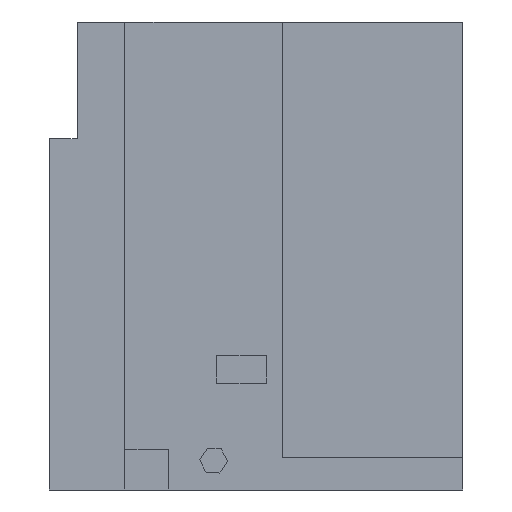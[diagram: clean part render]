
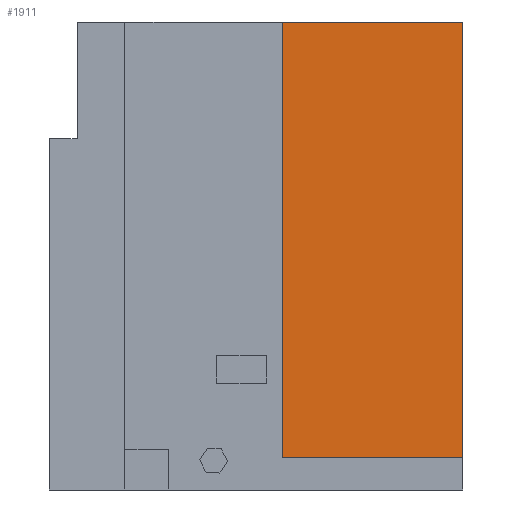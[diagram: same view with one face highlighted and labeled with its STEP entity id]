
A CAD part, left-side view. The second image highlights one B-rep face of the part: STEP entity #1911.
In plain terms, the highlighted planar face has unit normal (-1, 0, 0).
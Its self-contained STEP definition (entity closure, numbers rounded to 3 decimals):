
#44 = PLANE('',#45);
#45 = AXIS2_PLACEMENT_3D('',#46,#47,#48);
#46 = CARTESIAN_POINT('',(0.,0.,33.528));
#47 = DIRECTION('',(0.,0.,1.));
#48 = DIRECTION('',(1.,0.,-0.));
#72 = PLANE('',#73);
#73 = AXIS2_PLACEMENT_3D('',#74,#75,#76);
#74 = CARTESIAN_POINT('',(0.,12.929,33.528));
#75 = DIRECTION('',(0.,1.,0.));
#76 = DIRECTION('',(0.,0.,-1.));
#100 = PLANE('',#101);
#101 = AXIS2_PLACEMENT_3D('',#102,#103,#104);
#102 = CARTESIAN_POINT('',(0.,12.929,2.364));
#103 = DIRECTION('',(0.,-0.,-1.));
#104 = DIRECTION('',(0.,-1.,0.));
#128 = PLANE('',#129);
#129 = AXIS2_PLACEMENT_3D('',#130,#131,#132);
#130 = CARTESIAN_POINT('',(0.,0.,0.));
#131 = DIRECTION('',(-0.,1.,0.));
#132 = DIRECTION('',(0.,0.,1.));
#539 = VERTEX_POINT('',#540);
#540 = CARTESIAN_POINT('',(9.227,12.929,
    33.528));
#561 = EDGE_CURVE('',#562,#539,#564,.T.);
#562 = VERTEX_POINT('',#563);
#563 = CARTESIAN_POINT('',(9.227,0.,33.528));
#564 = SURFACE_CURVE('',#565,(#569,#576),.PCURVE_S1.);
#565 = LINE('',#566,#567);
#566 = CARTESIAN_POINT('',(9.227,0.,33.528));
#567 = VECTOR('',#568,1.);
#568 = DIRECTION('',(0.,1.,0.));
#569 = PCURVE('',#44,#570);
#570 = DEFINITIONAL_REPRESENTATION('',(#571),#575);
#571 = LINE('',#572,#573);
#572 = CARTESIAN_POINT('',(9.227,0.));
#573 = VECTOR('',#574,1.);
#574 = DIRECTION('',(0.,1.));
#575 = ( GEOMETRIC_REPRESENTATION_CONTEXT(2) 
PARAMETRIC_REPRESENTATION_CONTEXT() REPRESENTATION_CONTEXT('2D SPACE',''
  ) );
#576 = PCURVE('',#577,#582);
#577 = PLANE('',#578);
#578 = AXIS2_PLACEMENT_3D('',#579,#580,#581);
#579 = CARTESIAN_POINT('',(9.227,6.464,17.946
    ));
#580 = DIRECTION('',(-1.,-0.,-0.));
#581 = DIRECTION('',(0.,0.,-1.));
#582 = DEFINITIONAL_REPRESENTATION('',(#583),#587);
#583 = LINE('',#584,#585);
#584 = CARTESIAN_POINT('',(-15.582,6.464));
#585 = VECTOR('',#586,1.);
#586 = DIRECTION('',(0.,-1.));
#587 = ( GEOMETRIC_REPRESENTATION_CONTEXT(2) 
PARAMETRIC_REPRESENTATION_CONTEXT() REPRESENTATION_CONTEXT('2D SPACE',''
  ) );
#835 = EDGE_CURVE('',#539,#836,#838,.T.);
#836 = VERTEX_POINT('',#837);
#837 = CARTESIAN_POINT('',(9.227,12.929,2.364
    ));
#838 = SURFACE_CURVE('',#839,(#843,#850),.PCURVE_S1.);
#839 = LINE('',#840,#841);
#840 = CARTESIAN_POINT('',(9.227,12.929,
    33.528));
#841 = VECTOR('',#842,1.);
#842 = DIRECTION('',(0.,0.,-1.));
#843 = PCURVE('',#72,#844);
#844 = DEFINITIONAL_REPRESENTATION('',(#845),#849);
#845 = LINE('',#846,#847);
#846 = CARTESIAN_POINT('',(0.,-9.227));
#847 = VECTOR('',#848,1.);
#848 = DIRECTION('',(1.,0.));
#849 = ( GEOMETRIC_REPRESENTATION_CONTEXT(2) 
PARAMETRIC_REPRESENTATION_CONTEXT() REPRESENTATION_CONTEXT('2D SPACE',''
  ) );
#850 = PCURVE('',#577,#851);
#851 = DEFINITIONAL_REPRESENTATION('',(#852),#856);
#852 = LINE('',#853,#854);
#853 = CARTESIAN_POINT('',(-15.582,-6.464));
#854 = VECTOR('',#855,1.);
#855 = DIRECTION('',(1.,0.));
#856 = ( GEOMETRIC_REPRESENTATION_CONTEXT(2) 
PARAMETRIC_REPRESENTATION_CONTEXT() REPRESENTATION_CONTEXT('2D SPACE',''
  ) );
#1098 = EDGE_CURVE('',#836,#1099,#1101,.T.);
#1099 = VERTEX_POINT('',#1100);
#1100 = CARTESIAN_POINT('',(9.227,0.,2.364));
#1101 = SURFACE_CURVE('',#1102,(#1106,#1113),.PCURVE_S1.);
#1102 = LINE('',#1103,#1104);
#1103 = CARTESIAN_POINT('',(9.227,12.929,
    2.364));
#1104 = VECTOR('',#1105,1.);
#1105 = DIRECTION('',(0.,-1.,0.));
#1106 = PCURVE('',#100,#1107);
#1107 = DEFINITIONAL_REPRESENTATION('',(#1108),#1112);
#1108 = LINE('',#1109,#1110);
#1109 = CARTESIAN_POINT('',(0.,-9.227));
#1110 = VECTOR('',#1111,1.);
#1111 = DIRECTION('',(1.,0.));
#1112 = ( GEOMETRIC_REPRESENTATION_CONTEXT(2) 
PARAMETRIC_REPRESENTATION_CONTEXT() REPRESENTATION_CONTEXT('2D SPACE',''
  ) );
#1113 = PCURVE('',#577,#1114);
#1114 = DEFINITIONAL_REPRESENTATION('',(#1115),#1119);
#1115 = LINE('',#1116,#1117);
#1116 = CARTESIAN_POINT('',(15.582,-6.464));
#1117 = VECTOR('',#1118,1.);
#1118 = DIRECTION('',(0.,1.));
#1119 = ( GEOMETRIC_REPRESENTATION_CONTEXT(2) 
PARAMETRIC_REPRESENTATION_CONTEXT() REPRESENTATION_CONTEXT('2D SPACE',''
  ) );
#1241 = EDGE_CURVE('',#1099,#562,#1242,.T.);
#1242 = SURFACE_CURVE('',#1243,(#1247,#1254),.PCURVE_S1.);
#1243 = LINE('',#1244,#1245);
#1244 = CARTESIAN_POINT('',(9.227,0.,2.364));
#1245 = VECTOR('',#1246,1.);
#1246 = DIRECTION('',(0.,0.,1.));
#1247 = PCURVE('',#128,#1248);
#1248 = DEFINITIONAL_REPRESENTATION('',(#1249),#1253);
#1249 = LINE('',#1250,#1251);
#1250 = CARTESIAN_POINT('',(2.364,9.227));
#1251 = VECTOR('',#1252,1.);
#1252 = DIRECTION('',(1.,0.));
#1253 = ( GEOMETRIC_REPRESENTATION_CONTEXT(2) 
PARAMETRIC_REPRESENTATION_CONTEXT() REPRESENTATION_CONTEXT('2D SPACE',''
  ) );
#1254 = PCURVE('',#577,#1255);
#1255 = DEFINITIONAL_REPRESENTATION('',(#1256),#1260);
#1256 = LINE('',#1257,#1258);
#1257 = CARTESIAN_POINT('',(15.582,6.464));
#1258 = VECTOR('',#1259,1.);
#1259 = DIRECTION('',(-1.,0.));
#1260 = ( GEOMETRIC_REPRESENTATION_CONTEXT(2) 
PARAMETRIC_REPRESENTATION_CONTEXT() REPRESENTATION_CONTEXT('2D SPACE',''
  ) );
#1911 = ADVANCED_FACE('f019',(#1912),#577,.T.);
#1912 = FACE_BOUND('',#1913,.T.);
#1913 = EDGE_LOOP('',(#1914,#1915,#1916,#1917));
#1914 = ORIENTED_EDGE('',*,*,#1241,.T.);
#1915 = ORIENTED_EDGE('',*,*,#561,.T.);
#1916 = ORIENTED_EDGE('',*,*,#835,.T.);
#1917 = ORIENTED_EDGE('',*,*,#1098,.T.);
